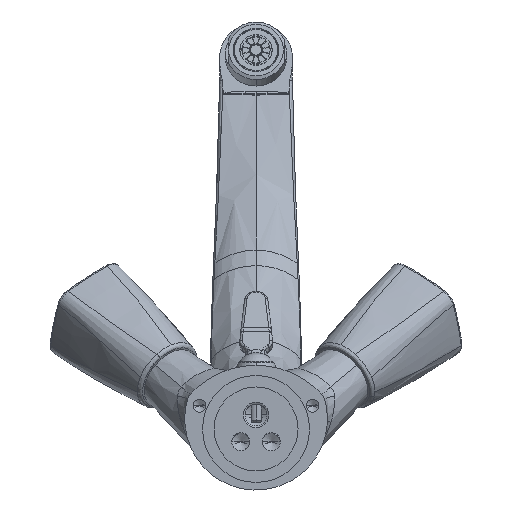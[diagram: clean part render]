
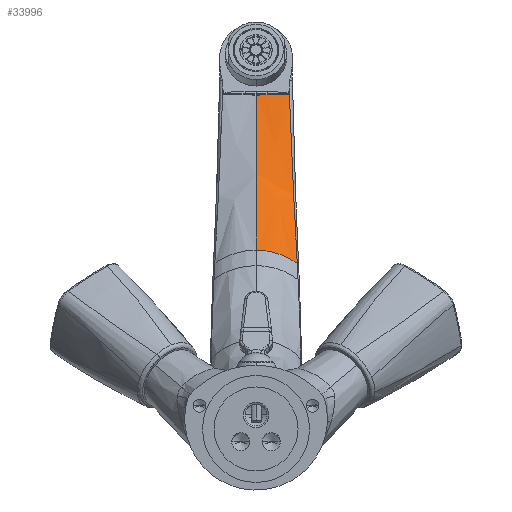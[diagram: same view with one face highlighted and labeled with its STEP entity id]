
A CAD part, front view. The second image highlights one B-rep face of the part: STEP entity #33996.
In plain terms, the highlighted free-form (B-spline) face has degree [3, 3] with [5, 4] control points.
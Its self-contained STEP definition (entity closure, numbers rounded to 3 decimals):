
#10299=CARTESIAN_POINT('',(0.,138.815,
70.251));
#10301=CARTESIAN_POINT('',(16.199,142.623,65.053));
#10302=CARTESIAN_POINT('',(14.241,141.488,66.467));
#10303=CARTESIAN_POINT('',(9.257,139.567,69.113));
#10304=CARTESIAN_POINT('',(3.177,138.858,70.235));
#10305=CARTESIAN_POINT('',(0.,138.815,
70.251));
#10314=CARTESIAN_POINT('',(16.199,142.623,65.053));
#10351=CARTESIAN_POINT('',(13.013,169.445,133.484));
#10374=CARTESIAN_POINT('',(13.013,169.445,133.484));
#10375=CARTESIAN_POINT('',(13.056,168.769,131.547));
#10376=CARTESIAN_POINT('',(13.165,167.33,127.388));
#10377=CARTESIAN_POINT('',(13.408,164.903,120.315));
#10378=CARTESIAN_POINT('',(13.739,162.173,112.392));
#10379=CARTESIAN_POINT('',(14.115,159.403,104.524));
#10380=CARTESIAN_POINT('',(14.469,156.888,97.632));
#10381=CARTESIAN_POINT('',(14.788,154.608,91.639));
#10382=CARTESIAN_POINT('',(15.077,152.469,86.273));
#10383=CARTESIAN_POINT('',(15.342,150.423,81.386));
#10384=CARTESIAN_POINT('',(15.585,148.435,76.875));
#10385=CARTESIAN_POINT('',(15.808,146.481,72.671));
#10386=CARTESIAN_POINT('',(16.013,144.549,68.733));
#10387=CARTESIAN_POINT('',(16.139,143.263,66.254));
#10388=CARTESIAN_POINT('',(16.199,142.623,65.053));
#10422=CARTESIAN_POINT('',(12.808,168.802,131.719));
#10479=CARTESIAN_POINT('',(13.013,169.445,133.484));
#10480=CARTESIAN_POINT('',(12.989,169.371,133.283));
#10481=CARTESIAN_POINT('',(12.941,169.226,132.883));
#10482=CARTESIAN_POINT('',(12.873,169.012,132.295));
#10483=CARTESIAN_POINT('',(12.829,168.872,131.91));
#10484=CARTESIAN_POINT('',(12.808,168.802,131.719));
#10491=CARTESIAN_POINT('',(12.808,168.802,131.719));
#10492=CARTESIAN_POINT('',(12.807,168.8,131.714));
#10493=CARTESIAN_POINT('',(12.805,168.796,131.702));
#10494=CARTESIAN_POINT('',(12.802,168.789,131.684));
#10495=CARTESIAN_POINT('',(12.797,168.783,131.667));
#10496=CARTESIAN_POINT('',(12.79,168.776,131.651));
#10497=CARTESIAN_POINT('',(12.784,168.771,131.637));
#10498=CARTESIAN_POINT('',(12.777,168.765,131.625));
#10499=CARTESIAN_POINT('',(12.769,168.761,131.613));
#10500=CARTESIAN_POINT('',(12.76,168.756,131.602));
#10501=CARTESIAN_POINT('',(12.749,168.751,131.592));
#10502=CARTESIAN_POINT('',(12.738,168.747,131.583));
#10503=CARTESIAN_POINT('',(12.726,168.743,131.575));
#10504=CARTESIAN_POINT('',(12.717,168.74,131.571));
#10505=CARTESIAN_POINT('',(12.713,168.739,131.57));
#10573=CARTESIAN_POINT('',(12.713,168.739,131.57));
#10575=CARTESIAN_POINT('',(12.713,168.739,131.57));
#10576=CARTESIAN_POINT('',(12.183,168.681,131.571));
#10577=CARTESIAN_POINT('',(11.041,168.576,131.574));
#10578=CARTESIAN_POINT('',(9.081,168.461,131.577));
#10579=CARTESIAN_POINT('',(6.863,168.389,131.578));
#10580=CARTESIAN_POINT('',(5.195,168.361,131.578));
#10581=CARTESIAN_POINT('',(4.316,168.346,131.579));
#10583=CARTESIAN_POINT('',(0.,138.815,
70.251));
#10584=CARTESIAN_POINT('',(0.,150.42,
89.594));
#10585=CARTESIAN_POINT('',(0.,160.226,
110.016));
#10586=CARTESIAN_POINT('',(0.,168.071,
131.165));
#10588=CARTESIAN_POINT('',(0.,168.071,
131.165));
#10589=CARTESIAN_POINT('',(0.198,168.076,
131.155));
#10590=CARTESIAN_POINT('',(0.598,168.089,
131.142));
#10591=CARTESIAN_POINT('',(1.203,168.114,131.148));
#10592=CARTESIAN_POINT('',(1.814,168.144,131.18));
#10593=CARTESIAN_POINT('',(2.431,168.182,131.238));
#10594=CARTESIAN_POINT('',(3.055,168.227,131.323));
#10595=CARTESIAN_POINT('',(3.683,168.281,131.434));
#10596=CARTESIAN_POINT('',(4.105,168.323,131.527));
#10597=CARTESIAN_POINT('',(4.316,168.346,131.579));
#16386=VERTEX_POINT('',#10299);
#16517=VERTEX_POINT('',#10314);
#16531=VERTEX_POINT('',#10351);
#16595=VERTEX_POINT('',#10573);
#16597=VERTEX_POINT('',#10422);
#16603=VERTEX_POINT('',#10581);
#16651=VERTEX_POINT('',#10586);
#33964=CARTESIAN_POINT('',(16.357,142.353,64.32));
#33965=CARTESIAN_POINT('',(15.462,154.077,85.818));
#33966=CARTESIAN_POINT('',(14.281,161.695,110.657));
#33967=CARTESIAN_POINT('',(13.935,169.765,134.101));
#33968=CARTESIAN_POINT('',(14.376,141.176,65.783));
#33969=CARTESIAN_POINT('',(13.423,153.15,86.937));
#33970=CARTESIAN_POINT('',(12.203,161.267,111.193));
#33971=CARTESIAN_POINT('',(11.761,169.565,134.294));
#33972=CARTESIAN_POINT('',(9.297,139.191,68.515));
#33973=CARTESIAN_POINT('',(8.515,151.539,89.165));
#33974=CARTESIAN_POINT('',(7.547,161.055,111.87));
#33975=CARTESIAN_POINT('',(7.119,169.426,134.509));
#33976=CARTESIAN_POINT('',(3.066,138.477,69.648));
#33977=CARTESIAN_POINT('',(2.809,150.89,90.198));
#33978=CARTESIAN_POINT('',(2.49,161.281,111.957));
#33979=CARTESIAN_POINT('',(2.35,169.422,134.536));
#33980=CARTESIAN_POINT('',(-0.178,138.446,
69.642));
#33981=CARTESIAN_POINT('',(-0.163,150.835,
90.202));
#33982=CARTESIAN_POINT('',(-0.145,161.187,
111.988));
#33983=CARTESIAN_POINT('',(-0.137,169.31,
134.576));
#33984=B_SPLINE_SURFACE_WITH_KNOTS('',3,3,((#33964,#33965,#33966,#33967),
(#33968,#33969,#33970,#33971),(#33972,#33973,#33974,#33975),(#33976,#33977,
#33978,#33979),(#33980,#33981,#33982,#33983)),.UNSPECIFIED.,.F.,.F.,.F.,(4,1,4),
(4,4),(0.815,0.904,1.002),(0.361,
0.906),.UNSPECIFIED.);
#33985=ORIENTED_EDGE('',*,*,#33957,.F.);
#33986=ORIENTED_EDGE('',*,*,#33914,.F.);
#33987=ORIENTED_EDGE('',*,*,#33737,.F.);
#33988=ORIENTED_EDGE('',*,*,#33690,.T.);
#33989=ORIENTED_EDGE('',*,*,#33544,.T.);
#33991=ORIENTED_EDGE('',*,*,#33990,.T.);
#33993=ORIENTED_EDGE('',*,*,#33992,.T.);
#33994=EDGE_LOOP('',(#33985,#33986,#33987,#33988,#33989,#33991,#33993));
#33995=FACE_OUTER_BOUND('',#33994,.F.);
#33996=ADVANCED_FACE('',(#33995),#33984,.F.);
#10306=B_SPLINE_CURVE_WITH_KNOTS('',3,(#10301,#10302,#10303,#10304,#10305),
.UNSPECIFIED.,.F.,.F.,(4,1,4),(0.,0.478,1.),.UNSPECIFIED.);
#10389=B_SPLINE_CURVE_WITH_KNOTS('',3,(#10374,#10375,#10376,#10377,#10378,
#10379,#10380,#10381,#10382,#10383,#10384,#10385,#10386,#10387,#10388),
.UNSPECIFIED.,.F.,.F.,(4,1,1,1,1,1,1,1,1,1,1,1,4),(0.,0.083,
0.167,0.25,0.333,0.417,0.5,
0.583,0.667,0.75,0.833,0.917,
1.),.UNSPECIFIED.);
#10485=B_SPLINE_CURVE_WITH_KNOTS('',3,(#10479,#10480,#10481,#10482,#10483,
#10484),.UNSPECIFIED.,.F.,.F.,(4,1,1,4),(0.,0.333,
0.667,1.),.UNSPECIFIED.);
#10506=B_SPLINE_CURVE_WITH_KNOTS('',3,(#10491,#10492,#10493,#10494,#10495,
#10496,#10497,#10498,#10499,#10500,#10501,#10502,#10503,#10504,#10505),
.UNSPECIFIED.,.F.,.F.,(4,1,1,1,1,1,1,1,1,1,1,1,4),(0.,0.083,
0.167,0.25,0.333,0.417,0.5,
0.583,0.667,0.75,0.833,0.917,
1.),.UNSPECIFIED.);
#10582=B_SPLINE_CURVE_WITH_KNOTS('',3,(#10575,#10576,#10577,#10578,#10579,
#10580,#10581),.UNSPECIFIED.,.F.,.F.,(4,1,1,1,4),(0.,0.25,0.5,0.75,
1.),.UNSPECIFIED.);
#10587=B_SPLINE_CURVE_WITH_KNOTS('',3,(#10583,#10584,#10585,#10586),
.UNSPECIFIED.,.F.,.F.,(4,4),(0.,1.),.UNSPECIFIED.);
#10598=B_SPLINE_CURVE_WITH_KNOTS('',3,(#10588,#10589,#10590,#10591,#10592,
#10593,#10594,#10595,#10596,#10597),.UNSPECIFIED.,.F.,.F.,(4,1,1,1,1,1,1,4),(
0.,0.143,0.286,0.429,0.571,
0.714,0.857,1.),.UNSPECIFIED.);
#33544=EDGE_CURVE('',#16517,#16386,#10306,.T.);
#33690=EDGE_CURVE('',#16531,#16517,#10389,.T.);
#33737=EDGE_CURVE('',#16531,#16597,#10485,.T.);
#33914=EDGE_CURVE('',#16597,#16595,#10506,.T.);
#33957=EDGE_CURVE('',#16595,#16603,#10582,.T.);
#33990=EDGE_CURVE('',#16386,#16651,#10587,.T.);
#33992=EDGE_CURVE('',#16651,#16603,#10598,.T.);
